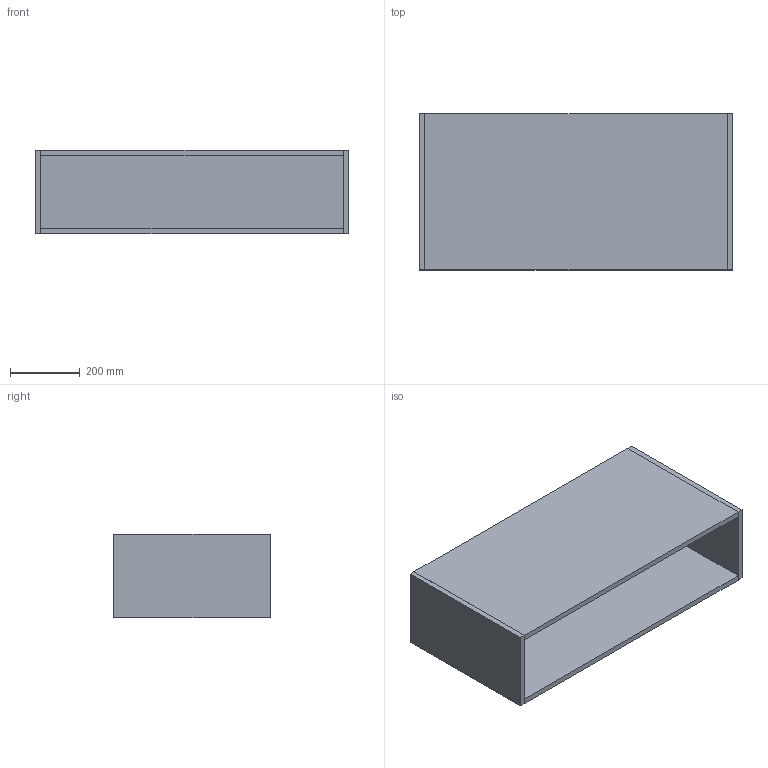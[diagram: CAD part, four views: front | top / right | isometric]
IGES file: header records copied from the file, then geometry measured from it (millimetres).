
Start section: Data from Parasolid IGES Translator 19.0.9, Copyright(c) 2006 Siemens PL M Software. All Rights Reserved.
Global section: file name: noorth-SI-H 24 D 47 W 90_8301.igs; native system: By Siemens PLM Incorporated; preprocessor: XPlus GENERIC/IGES 19.0.9; author: Noname; organization: Noname; date: 20200530.115427; units: metre
Bounding box: 900.01 x 448.06 x 240 mm (x, y, z)
Volume: 16401546.4 mm3; surface area: 2481188.6 mm2
Topology: 5 solids, 5 shells, 30 faces, 60 edges, 40 vertices
Faces by surface type: plane 30
